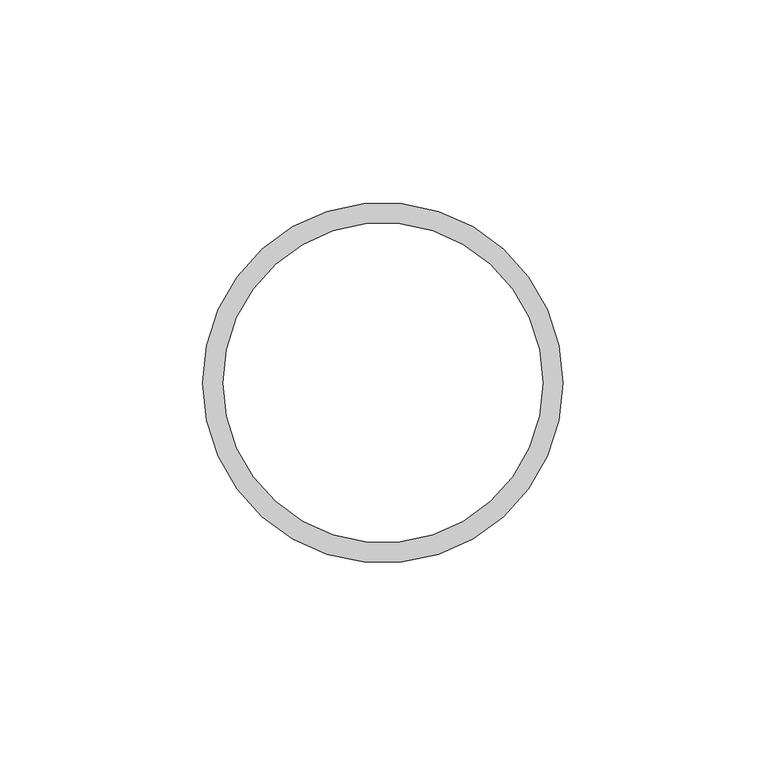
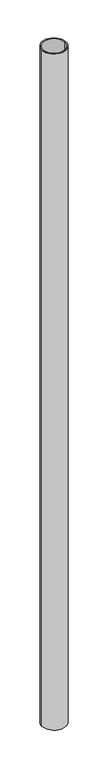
"""IFC4 building model written with IfcOpenShell, lengths in millimetres: column geometry, NLRS_28_SC_TLB_kolom buis_generiek_ISR : ø88.9x5 ."""

import ifcopenshell
import ifcopenshell.guid

model = None  # the IFC model being written
_history = None  # IfcOwnerHistory: only IFC2X3 demands one
_inside = {}  # id of a spatial element -> (the spatial element, [elements in it])
_under = {}  # id of a project, library or spatial element -> (it, [spatial elements below it])
_declared = {}  # id of a project -> (the project, [libraries it declares])
_typed = {}  # id of a type object -> (the type object, [elements of that type])
_made_of = {}  # id of a material, layer set ... -> (it, [elements and type objects made of it])


def new_model(schema):
    """Start an empty IFC model of exactly this schema.

    Asked for "IFC4X3", IfcOpenShell would pick the latest addendum, in which some entities
    have other attributes; the version numbers below select the first issue.
    IFC2X3 requires an IfcOwnerHistory on every rooted entity: one is made here for all.
    """
    global model, _history
    if schema == "IFC4X3":
        model = ifcopenshell.file(schema_version=(4, 3, 0, 0))
    else:
        model = ifcopenshell.file(schema=schema)
    _inside.clear()
    _under.clear()
    _declared.clear()
    _typed.clear()
    _made_of.clear()
    _history = None
    if model.schema == "IFC2X3":
        org = make("IfcOrganization", Name="unknown")
        user = make(
            "IfcPersonAndOrganization",
            ThePerson=make("IfcPerson", FamilyName="unknown"),
            TheOrganization=org,
        )
        app = make(
            "IfcApplication",
            ApplicationDeveloper=org,
            Version="unknown",
            ApplicationFullName="unknown",
            ApplicationIdentifier="unknown",
        )
        _history = make(
            "IfcOwnerHistory",
            OwningUser=user,
            OwningApplication=app,
            ChangeAction="ADDED",
            CreationDate=0,
        )
    return model


def make(cls, **values):
    """One entity of the class cls with the attributes given. An attribute that is None is left unset."""
    return model.create_entity(
        cls, **{name: value for name, value in values.items() if value is not None}
    )


def rooted(cls, **values):
    """An entity with a GlobalId (a new one), such as an element, a storey or a relation."""
    return make(cls, GlobalId=ifcopenshell.guid.new(), OwnerHistory=_history, **values)


def si_unit(unit_type, name, prefix=None):
    """IfcSIUnit, for example si_unit("LENGTHUNIT", "METRE", prefix="MILLI")."""
    return make("IfcSIUnit", UnitType=unit_type, Prefix=prefix, Name=name)


def assignment(units):
    """IfcUnitAssignment: the units of a project."""
    return None if units is None else make("IfcUnitAssignment", Units=units)


def point(xyz):
    """IfcCartesianPoint."""
    return None if xyz is None else make("IfcCartesianPoint", Coordinates=xyz)


def direction(xyz):
    """IfcDirection."""
    return None if xyz is None else make("IfcDirection", DirectionRatios=xyz)


def frame(location, z_axis=None, x_axis=None):
    """IfcAxis2Placement3D, a coordinate frame: its origin and axes. An axis left out is left unset."""
    return make(
        "IfcAxis2Placement3D",
        Location=point(location),
        Axis=direction(z_axis),
        RefDirection=direction(x_axis),
    )


def frame_2d(location, x_axis=None):
    """IfcAxis2Placement2D, a coordinate frame in the plane: its origin and x axis."""
    return make(
        "IfcAxis2Placement2D", Location=point(location), RefDirection=direction(x_axis)
    )


def origin():
    """The frame at (0, 0, 0) with its axes left unset."""
    return frame((0.0, 0.0, 0.0))


def origin_2d():
    """The frame at (0, 0) in the plane with its x axis left unset."""
    return frame_2d((0.0, 0.0))


def place(relative_to, where):
    """IfcLocalPlacement: puts the frame where relative to a parent placement (None: the world)."""
    return make(
        "IfcLocalPlacement", PlacementRelTo=relative_to, RelativePlacement=where
    )


def context(
    kind, dimensions, precision=None, world=None, true_north=None, identifier=None
):
    """IfcGeometricRepresentationContext, for example the 3D "Model" context."""
    return make(
        "IfcGeometricRepresentationContext",
        ContextIdentifier=identifier,
        ContextType=kind,
        CoordinateSpaceDimension=dimensions,
        Precision=precision,
        WorldCoordinateSystem=world,
        TrueNorth=true_north,
    )


def project(units=None, contexts=None):
    """IfcProject with its units and contexts."""
    return rooted(
        "IfcProject",
        Name="project",
        RepresentationContexts=contexts,
        UnitsInContext=assignment(units),
    )


def spatial(cls, under=None, at=None, **own):
    """A site, building, storey or space (cls), placed at a placement, below another one or the project."""
    s = rooted(cls, ObjectPlacement=at, **own)
    if under is not None:
        _under.setdefault(under.id(), (under, []))[1].append(s)
    return s


def circle_curve(where, radius):
    """IfcCircle in the frame where."""
    return make("IfcCircle", Position=where, Radius=radius)


def trimmed(basis, trim1, trim2, sense, master):
    """IfcTrimmedCurve: the piece of a basis curve between two trims."""
    return make(
        "IfcTrimmedCurve",
        BasisCurve=basis,
        Trim1=trim1,
        Trim2=trim2,
        SenseAgreement=sense,
        MasterRepresentation=master,
    )


def segment(curve, same_sense, transition):
    """IfcCompositeCurveSegment."""
    return make(
        "IfcCompositeCurveSegment",
        Transition=transition,
        SameSense=same_sense,
        ParentCurve=curve,
    )


def composite_curve(segments, self_intersect=None):
    """IfcCompositeCurve: segments joined end to end."""
    return make("IfcCompositeCurve", Segments=segments, SelfIntersect=self_intersect)


def outline(outer, holes=None, kind="AREA"):
    """IfcArbitraryClosedProfileDef: a profile drawn as a closed curve; with holes, ...WithVoids."""
    if holes is None:
        return make("IfcArbitraryClosedProfileDef", ProfileType=kind, OuterCurve=outer)
    return make(
        "IfcArbitraryProfileDefWithVoids",
        ProfileType=kind,
        OuterCurve=outer,
        InnerCurves=holes,
    )


def extrude(swept, where, along, depth):
    """IfcExtrudedAreaSolid: the profile swept, set in the frame where, extruded along a direction by depth."""
    return make(
        "IfcExtrudedAreaSolid",
        SweptArea=swept,
        Position=where,
        ExtrudedDirection=direction(along),
        Depth=depth,
    )


def shape(context_of_items, identifier, shape_type, items):
    """IfcShapeRepresentation: the items that make up one representation, for example the "Body"."""
    return make(
        "IfcShapeRepresentation",
        ContextOfItems=context_of_items,
        RepresentationIdentifier=identifier,
        RepresentationType=shape_type,
        Items=items,
    )


def source(mapping_origin, context_of_items, identifier, shape_type, items):
    """IfcRepresentationMap: a shape defined once, which mapped items show again and again."""
    return make(
        "IfcRepresentationMap",
        MappingOrigin=mapping_origin,
        MappedRepresentation=shape(context_of_items, identifier, shape_type, items),
    )


def transform(
    local_origin,
    x_axis=None,
    y_axis=None,
    z_axis=None,
    scale=None,
    scale2=None,
    scale3=None,
    uniform=True,
):
    """IfcCartesianTransformationOperator3D, or its non-uniform kind. x_axis, y_axis, z_axis: its Axis1, 2, 3."""
    if uniform:
        return make(
            "IfcCartesianTransformationOperator3D",
            Axis1=direction(x_axis),
            Axis2=direction(y_axis),
            LocalOrigin=point(local_origin),
            Scale=scale,
            Axis3=direction(z_axis),
        )
    return make(
        "IfcCartesianTransformationOperator3DnonUniform",
        Axis1=direction(x_axis),
        Axis2=direction(y_axis),
        LocalOrigin=point(local_origin),
        Scale=scale,
        Axis3=direction(z_axis),
        Scale2=scale2,
        Scale3=scale3,
    )


def mapped(mapping_source, mapping_target):
    """IfcMappedItem: shows the shape of a source again, moved by a transform."""
    return make(
        "IfcMappedItem", MappingSource=mapping_source, MappingTarget=mapping_target
    )


def made_of(thing, what):
    """Note that an element or type object is made of a material, layer set ...; save() writes the relation."""
    if what is not None:
        _made_of.setdefault(what.id(), (what, []))[1].append(thing)
    return thing


def element(
    cls,
    number,
    at=None,
    inside=None,
    cuts=None,
    type_object=None,
    material=None,
    context=None,
    identifier="Body",
    shape_type=None,
    held_by="IfcProductDefinitionShape",
    body=None,
    shapes=None,
    **own,
):
    """One element of the class cls, such as IfcWall. Its Tag is "e" and its number.

    at: its placement. inside: the storey or other place that contains it. cuts: it is an
    opening in that element (IfcRelVoidsElement). A single representation is given by context,
    identifier, shape_type and body (its items); several are given by shapes. held_by: the class
    of the entity that holds the representations. save() writes the other relations.
    """
    e = rooted(cls, Tag="e%d" % number, ObjectPlacement=at, **own)
    if body is not None:
        shapes = [shape(context, identifier, shape_type, body)]
    if shapes is not None:
        e.Representation = make(held_by, Representations=shapes)
    if inside is not None:
        _inside.setdefault(inside.id(), (inside, []))[1].append(e)
    if cuts is not None:
        rooted(
            "IfcRelVoidsElement", RelatingBuildingElement=cuts, RelatedOpeningElement=e
        )
    if type_object is not None:
        _typed.setdefault(type_object.id(), (type_object, []))[1].append(e)
    return made_of(e, material)


def aggregate(whole, parts):
    """IfcRelAggregates: a whole, such as a stair, and the parts it consists of."""
    return rooted("IfcRelAggregates", RelatingObject=whole, RelatedObjects=parts)


def save(model, path):
    """Write the relations noted so far, then the file.

    IfcRelAggregates (storeys below a building ...), IfcRelContainedInSpatialStructure (elements
    in a storey), IfcRelDefinesByType, IfcRelAssociatesMaterial and IfcRelDeclares: one each for
    every whole, place, type object, material and project.
    """
    for whole, parts in _under.values():
        aggregate(whole, parts)
    for where, things in _inside.values():
        rooted(
            "IfcRelContainedInSpatialStructure",
            RelatedElements=things,
            RelatingStructure=where,
        )
    for kind, things in _typed.values():
        rooted("IfcRelDefinesByType", RelatedObjects=things, RelatingType=kind)
    for what, things in _made_of.values():
        rooted("IfcRelAssociatesMaterial", RelatedObjects=things, RelatingMaterial=what)
    for by, libraries in _declared.values():
        rooted("IfcRelDeclares", RelatingContext=by, RelatedDefinitions=libraries)
    model.write(path)


def column_04f8d3d0(model_context):
    return source(origin(), model_context, "Body", "SweptSolid", [
        extrude(outline(composite_curve([segment(trimmed(circle_curve(origin_2d(), 44.45), [point((44.45, 0.0))], [point((-44.45, 0.0))], False, "CARTESIAN"), True, "CONTINUOUS"), segment(trimmed(circle_curve(origin_2d(), 44.45), [point((-44.45, 0.0))], [point((44.45, 0.0))], False, "CARTESIAN"), True, "CONTINUOUS")], self_intersect=False), holes=[composite_curve([segment(trimmed(circle_curve(origin_2d(), 39.45), [point((39.45, 0.0))], [point((-39.45, 0.0))], True, "CARTESIAN"), True, "CONTINUOUS"), segment(trimmed(circle_curve(origin_2d(), 39.45), [point((-39.45, 0.0))], [point((39.45, 0.0))], True, "CARTESIAN"), True, "CONTINUOUS")], self_intersect=False)]), frame((0.0, 0.0, 3500.0), z_axis=(0.0, 0.0, 1.0), x_axis=(1.0, 0.0, 0.0)), (0.0, 0.0, 1.0), 2600.0),
    ])


if __name__ == "__main__":
    model = new_model("IFC4")
    model_context = context("Model", 3, world=origin())
    ifc_project = project(units=[si_unit("LENGTHUNIT", "METRE", prefix="MILLI")], contexts=[model_context])
    site = spatial("IfcSite", under=ifc_project)
    building = spatial("IfcBuilding", under=site)
    placement = place(None, origin())
    column_shape = column_04f8d3d0(model_context)
    element("IfcColumn", 1, ObjectType="NLRS_28_SC_TLB_kolom buis_generiek_ISR : ø88.9x5 ", at=placement, inside=building, context=model_context, shape_type="MappedRepresentation", body=[
        mapped(column_shape, transform((0.0, 0.0, 0.0), x_axis=(1.0, 0.0, 0.0), y_axis=(0.0, 1.0, 0.0), z_axis=(0.0, 0.0, 1.0))),
    ])
    save(model, "model.ifc")
